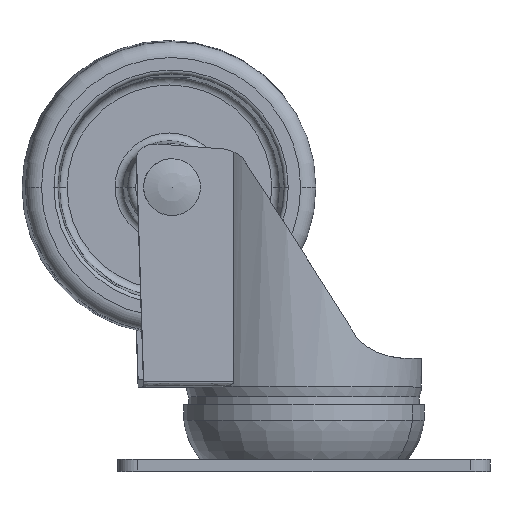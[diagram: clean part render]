
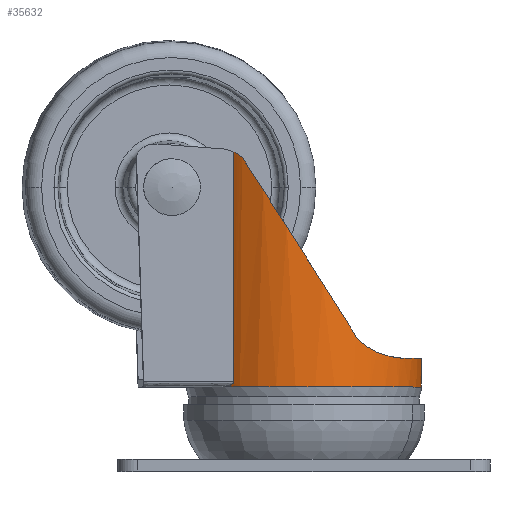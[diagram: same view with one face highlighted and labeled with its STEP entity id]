
A CAD part, top view. The second image highlights one B-rep face of the part: STEP entity #35632.
In plain terms, the highlighted cylindrical face has radius 30 mm (diameter 60 mm), a partial arc.
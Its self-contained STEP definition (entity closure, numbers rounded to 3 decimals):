
#326 = CARTESIAN_POINT ( 'NONE',  ( 22.999, 15.675, -19.266 ) ) ;
#882 = DIRECTION ( 'NONE',  ( 0., -1., 0. ) ) ;
#1994 = CARTESIAN_POINT ( 'NONE',  ( 24.957, 66.082, 16.648 ) ) ;
#2193 = CARTESIAN_POINT ( 'NONE',  ( 0., 14.685, -30. ) ) ;
#2312 = AXIS2_PLACEMENT_3D ( 'NONE', #33600, #9433, #20927 ) ;
#2719 = CARTESIAN_POINT ( 'NONE',  ( 25.831, 17.645, -15.259 ) ) ;
#3085 = CARTESIAN_POINT ( 'NONE',  ( 23.5, 67.31, 18.648 ) ) ;
#3444 = VERTEX_POINT ( 'NONE', #4560 ) ;
#3561 = AXIS2_PLACEMENT_3D ( 'NONE', #24775, #37081, #12896 ) ;
#4162 = VECTOR ( 'NONE', #14612, 1000. ) ;
#4432 = CYLINDRICAL_SURFACE ( 'NONE', #6052, 30. ) ;
#4560 = CARTESIAN_POINT ( 'NONE',  ( 27.307, 20.308, -12.423 ) ) ;
#4752 = EDGE_LOOP ( 'NONE', ( #18492, #36543, #14126, #34886, #33402, #15198, #29061, #9048 ) ) ;
#5738 = CARTESIAN_POINT ( 'NONE',  ( 22.792, 7.687, 19.507 ) ) ;
#5885 = CARTESIAN_POINT ( 'NONE',  ( 22.018, 15.34, -20.38 ) ) ;
#6052 = AXIS2_PLACEMENT_3D ( 'NONE', #18910, #882, #7427 ) ;
#6107 = CIRCLE ( 'NONE', #2312, 30. ) ;
#7334 = B_SPLINE_CURVE_WITH_KNOTS ( 'NONE', 3,
 ( #36424, #20985, #39217, #12071, #18201, #20792, #32688, #17814, #5738, #12270, #14853, #9301, #18006, #21357 ),
 .UNSPECIFIED., .F., .F.,
 ( 4, 2, 2, 2, 2, 2, 4 ),
 ( 0., 0., 0.001, 0.001, 0.002, 0.003, 0.004 ),
 .UNSPECIFIED. ) ;
#7427 = DIRECTION ( 'NONE',  ( 0., 0., -1. ) ) ;
#7760 = DIRECTION ( 'NONE',  ( 0., -1., 0. ) ) ;
#7952 = CARTESIAN_POINT ( 'NONE',  ( 23.5, 69.754, 18.648 ) ) ;
#8869 = CARTESIAN_POINT ( 'NONE',  ( 24.044, 67.001, 17.963 ) ) ;
#8881 = CARTESIAN_POINT ( 'NONE',  ( 22.268, 15.415, -20.106 ) ) ;
#9048 = ORIENTED_EDGE ( 'NONE', *, *, #36662, .T. ) ;
#9121 = CARTESIAN_POINT ( 'NONE',  ( 0., 7.342, -30. ) ) ;
#9301 = CARTESIAN_POINT ( 'NONE',  ( 21.917, 7.367, 20.487 ) ) ;
#9433 = DIRECTION ( 'NONE',  ( 0., 1., 0. ) ) ;
#9449 = CARTESIAN_POINT ( 'NONE',  ( 25.997, 17.845, -14.976 ) ) ;
#10113 = EDGE_CURVE ( 'NONE', #38500, #33101, #7334, .T. ) ;
#10208 = FACE_OUTER_BOUND ( 'NONE', #4752, .T. ) ;
#11312 = LINE ( 'NONE', #7952, #20181 ) ;
#11634 = CARTESIAN_POINT ( 'NONE',  ( 27.307, 20.308, -12.423 ) ) ;
#11819 = CARTESIAN_POINT ( 'NONE',  ( 25.313, 17.087, -16.114 ) ) ;
#12071 = CARTESIAN_POINT ( 'NONE',  ( 23.36, 8.256, 18.823 ) ) ;
#12270 = CARTESIAN_POINT ( 'NONE',  ( 22.513, 7.533, 19.831 ) ) ;
#12896 = DIRECTION ( 'NONE',  ( 0., 0., 1. ) ) ;
#13260 = CARTESIAN_POINT ( 'NONE',  ( 21.5, 7.342, 20.922 ) ) ;
#14126 = ORIENTED_EDGE ( 'NONE', *, *, #16038, .F. ) ;
#14612 = DIRECTION ( 'NONE',  ( 0., -1., 0. ) ) ;
#14853 = CARTESIAN_POINT ( 'NONE',  ( 22.317, 7.462, 20.051 ) ) ;
#15182 = CARTESIAN_POINT ( 'NONE',  ( 24.531, 66.608, 17.287 ) ) ;
#15198 = ORIENTED_EDGE ( 'NONE', *, *, #27613, .T. ) ;
#16038 = EDGE_CURVE ( 'NONE', #3444, #32363, #27969, .T. ) ;
#16154 = CARTESIAN_POINT ( 'NONE',  ( 23.5, 8.811, 18.648 ) ) ;
#17033 =( BOUNDED_CURVE ( )  B_SPLINE_CURVE ( 3, ( #24423, #30992, #31194, #24621 ),
 .UNSPECIFIED., .F., .F. ) 
 B_SPLINE_CURVE_WITH_KNOTS ( ( 4, 4 ),
 ( 0., 1. ),
 .UNSPECIFIED. ) 
 CURVE ( )  GEOMETRIC_REPRESENTATION_ITEM ( )  RATIONAL_B_SPLINE_CURVE ( ( 1., 0.916, 0.916, 1. ) ) 
 REPRESENTATION_ITEM ( '' )  );
#17584 = VERTEX_POINT ( 'NONE', #2193 ) ;
#17762 = CARTESIAN_POINT ( 'NONE',  ( 26.453, 18.489, -14.154 ) ) ;
#17814 = CARTESIAN_POINT ( 'NONE',  ( 22.883, 7.746, 19.401 ) ) ;
#18006 = CARTESIAN_POINT ( 'NONE',  ( 21.712, 7.342, 20.705 ) ) ;
#18201 = CARTESIAN_POINT ( 'NONE',  ( 23.291, 8.148, 18.909 ) ) ;
#18323 = EDGE_CURVE ( 'NONE', #3444, #31789, #17033, .T. ) ;
#18341 = CARTESIAN_POINT ( 'NONE',  ( 26.307, 18.266, -14.423 ) ) ;
#18492 = ORIENTED_EDGE ( 'NONE', *, *, #31057, .F. ) ;
#18910 = CARTESIAN_POINT ( 'NONE',  ( 0., 69.754, 0. ) ) ;
#20181 = VECTOR ( 'NONE', #7760, 1000. ) ;
#20792 = CARTESIAN_POINT ( 'NONE',  ( 23.139, 7.962, 19.095 ) ) ;
#20927 = DIRECTION ( 'NONE',  ( -1., 0., 0. ) ) ;
#20936 = CARTESIAN_POINT ( 'NONE',  ( 27.102, 19.718, -12.873 ) ) ;
#20985 = CARTESIAN_POINT ( 'NONE',  ( 23.5, 8.657, 18.648 ) ) ;
#21250 = CARTESIAN_POINT ( 'NONE',  ( 23.5, 67.31, 18.648 ) ) ;
#21357 = CARTESIAN_POINT ( 'NONE',  ( 21.5, 7.342, 20.922 ) ) ;
#21694 = CARTESIAN_POINT ( 'NONE',  ( 17.218, 14.695, -24.579 ) ) ;
#23514 = VERTEX_POINT ( 'NONE', #21250 ) ;
#23890 = CARTESIAN_POINT ( 'NONE',  ( 22.759, 15.582, -19.549 ) ) ;
#24088 = CARTESIAN_POINT ( 'NONE',  ( 24.13, 16.213, -17.839 ) ) ;
#24423 = CARTESIAN_POINT ( 'NONE',  ( 27.307, 20.308, -12.423 ) ) ;
#24621 = CARTESIAN_POINT ( 'NONE',  ( 24.957, 66.082, 16.648 ) ) ;
#24775 = CARTESIAN_POINT ( 'NONE',  ( 0., 14.685, 0. ) ) ;
#25452 = CARTESIAN_POINT ( 'NONE',  ( 17.838, 14.72, -24.133 ) ) ;
#26490 = LINE ( 'NONE', #33436, #4162 ) ;
#26995 = CIRCLE ( 'NONE', #3561, 30. ) ;
#27250 = CARTESIAN_POINT ( 'NONE',  ( 24.957, 66.082, 16.648 ) ) ;
#27455 = CARTESIAN_POINT ( 'NONE',  ( 23.696, 15.977, -18.413 ) ) ;
#27613 = EDGE_CURVE ( 'NONE', #23514, #38500, #11312, .T. ) ;
#27969 = B_SPLINE_CURVE_WITH_KNOTS ( 'NONE', 3,
 ( #11634, #20936, #35796, #17762, #18341, #9449, #2719, #11819, #30441, #24088, #27455, #326, #23890, #8881, #5885, #36382, #36194, #30824, #31033, #25452, #21694, #31424 ),
 .UNSPECIFIED., .F., .F.,
 ( 4, 2, 2, 2, 2, 2, 2, 2, 2, 2, 4 ),
 ( 0., 0.002, 0.003, 0.005, 0.007, 0.009, 0.01, 0.011, 0.014, 0.016, 0.018 ),
 .UNSPECIFIED. ) ;
#29061 = ORIENTED_EDGE ( 'NONE', *, *, #10113, .T. ) ;
#29983 = VERTEX_POINT ( 'NONE', #9121 ) ;
#30441 = CARTESIAN_POINT ( 'NONE',  ( 24.939, 16.768, -16.69 ) ) ;
#30824 = CARTESIAN_POINT ( 'NONE',  ( 19.608, 14.864, -22.718 ) ) ;
#30992 = CARTESIAN_POINT ( 'NONE',  ( 31.702, 35.52, -2.761 ) ) ;
#31033 = CARTESIAN_POINT ( 'NONE',  ( 19.032, 14.804, -23.202 ) ) ;
#31057 = EDGE_CURVE ( 'NONE', #17584, #29983, #26490, .T. ) ;
#31194 = CARTESIAN_POINT ( 'NONE',  ( 30.847, 52.179, 7.818 ) ) ;
#31424 = CARTESIAN_POINT ( 'NONE',  ( 16.583, 14.685, -25. ) ) ;
#31655 = EDGE_CURVE ( 'NONE', #32363, #17584, #26995, .T. ) ;
#31789 = VERTEX_POINT ( 'NONE', #1994 ) ;
#32363 = VERTEX_POINT ( 'NONE', #34165 ) ;
#32688 = CARTESIAN_POINT ( 'NONE',  ( 23.055, 7.883, 19.196 ) ) ;
#33101 = VERTEX_POINT ( 'NONE', #13260 ) ;
#33402 = ORIENTED_EDGE ( 'NONE', *, *, #36725, .F. ) ;
#33436 = CARTESIAN_POINT ( 'NONE',  ( 0., 69.754, -30. ) ) ;
#33600 = CARTESIAN_POINT ( 'NONE',  ( 0., 7.342, 0. ) ) ;
#34165 = CARTESIAN_POINT ( 'NONE',  ( 16.583, 14.685, -25. ) ) ;
#34886 = ORIENTED_EDGE ( 'NONE', *, *, #18323, .T. ) ;
#35632 = ADVANCED_FACE ( 'NONE', ( #10208 ), #4432, .T. ) ;
#35796 = CARTESIAN_POINT ( 'NONE',  ( 26.864, 19.195, -13.367 ) ) ;
#36194 = CARTESIAN_POINT ( 'NONE',  ( 20.717, 15.031, -21.711 ) ) ;
#36382 = CARTESIAN_POINT ( 'NONE',  ( 21.25, 15.137, -21.189 ) ) ;
#36424 = CARTESIAN_POINT ( 'NONE',  ( 23.5, 8.811, 18.648 ) ) ;
#36543 = ORIENTED_EDGE ( 'NONE', *, *, #31655, .F. ) ;
#36662 = EDGE_CURVE ( 'NONE', #33101, #29983, #6107, .T. ) ;
#36725 = EDGE_CURVE ( 'NONE', #23514, #31789, #37099, .T. ) ;
#37081 = DIRECTION ( 'NONE',  ( 0., 1., 0. ) ) ;
#37099 = B_SPLINE_CURVE_WITH_KNOTS ( 'NONE', 3,
 ( #3085, #8869, #15182, #27250 ),
 .UNSPECIFIED., .F., .F.,
 ( 4, 4 ),
 ( 0., 0.003 ),
 .UNSPECIFIED. ) ;
#38500 = VERTEX_POINT ( 'NONE', #16154 ) ;
#39217 = CARTESIAN_POINT ( 'NONE',  ( 23.466, 8.51, 18.691 ) ) ;
